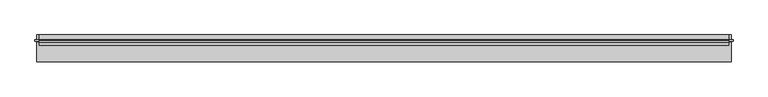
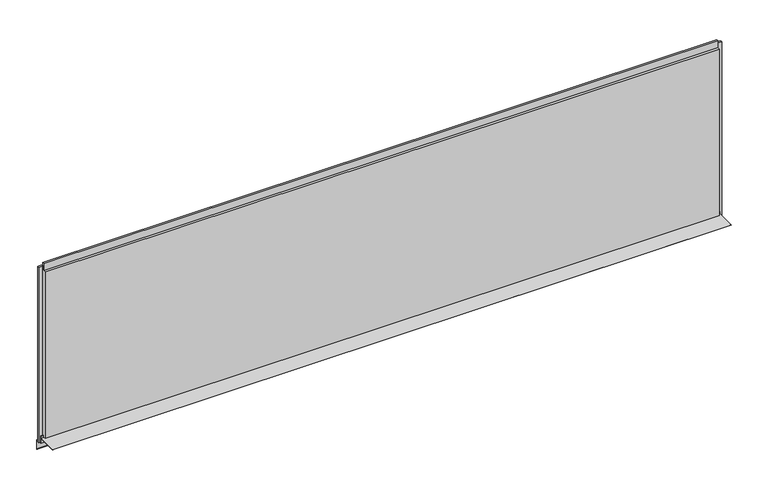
"""IFC4 building model written with IfcOpenShell, lengths in millimetres: plate geometry, Trimo_Qbiss Screen_Normal Panel-HORIZONTAL : HR - B."""

from ifc_helpers import new_model, si_unit, frame, origin, place, context, project, spatial, polyline, outline, extrude, source, transform, mapped, element, save


def plate_5f059f00(model_context):
    return source(origin(), model_context, "Body", "SweptSolid", [
        extrude(outline(polyline([(66.7, 14.0835797), (67.5, 14.0835797), (67.5, -23.0), (100.0, -25.8433816), (100.0, -76.0), (87.1509533, -63.1509533), (87.7166388, -62.5852679), (99.2, -74.0686292), (99.2, -26.5764465), (66.7, -23.7330649), (66.7, 1.0), (-32.5, 1.0), (-32.5, 1.8), (66.7, 1.8), (66.7, 14.0835797)])), frame((-1701.9549816, 0.0, 0.0), z_axis=(1.0, 0.0, 0.0), x_axis=(0.0, 1.0, 0.0)), (0.0, 0.0, 1.0), 3403.9099631),
        extrude(outline(polyline([(-1692.4549816, 76.5978162), (-1692.4549816, 67.8978162), (-1711.4549816, 67.8978162), (-1711.4549816, 76.5978162), (-1692.4549816, 76.5978162)])), frame((0.0, 0.0, -20.0), z_axis=(0.0, 0.0, 1.0), x_axis=(1.0, 0.0, 0.0)), (0.0, 0.0, 1.0), 931.5),
        extrude(outline(polyline([(1692.4549816, 67.8978162), (1692.4549816, 76.5978162), (1711.4549816, 76.5978162), (1711.4549816, 67.8978162), (1692.4549816, 67.8978162)])), frame((0.0, 0.0, -20.0), z_axis=(0.0, 0.0, 1.0), x_axis=(1.0, 0.0, 0.0)), (0.0, 0.0, 1.0), 931.5),
        extrude(outline(polyline([(1689.4549816, 76.0), (1689.4549816, 71.0), (-1689.4549816, 71.0), (-1689.4549816, 76.0), (1689.4549816, 76.0)])), frame((0.0, 0.0, 890.5), z_axis=(0.0, 0.0, 1.0), x_axis=(1.0, 0.0, 0.0)), (0.0, 0.0, 1.0), 21.0),
        extrude(outline(polyline([(71.0, 889.5), (100.0, 889.5), (100.0, 0.0), (72.0, 0.0), (72.0, 15.5), (62.0, 15.5), (62.0, 7.0), (50.0, 7.0), (50.0, 889.5), (63.0, 889.5), (63.0, 927.0), (71.0, 927.0), (71.0, 889.5)])), frame((-1689.4549816, 0.0, 0.0), z_axis=(1.0, 0.0, 0.0), x_axis=(0.0, 1.0, 0.0)), (0.0, 0.0, 1.0), 3378.9099631),
    ])


if __name__ == "__main__":
    model = new_model("IFC4")
    model_context = context("Model", 3, world=origin())
    ifc_project = project(units=[si_unit("LENGTHUNIT", "METRE", prefix="MILLI")], contexts=[model_context])
    site = spatial("IfcSite", under=ifc_project)
    building = spatial("IfcBuilding", under=site)
    placement = place(None, origin())
    plate_shape = plate_5f059f00(model_context)
    element("IfcPlate", 1, ObjectType="Trimo_Qbiss Screen_Normal Panel-HORIZONTAL : HR - B", at=placement, inside=building, context=model_context, shape_type="MappedRepresentation", body=[
        mapped(plate_shape, transform((0.0, 0.0, 0.0), x_axis=(1.0, 0.0, 0.0), y_axis=(0.0, 1.0, 0.0), z_axis=(0.0, 0.0, 1.0))),
    ])
    save(model, "model.ifc")
